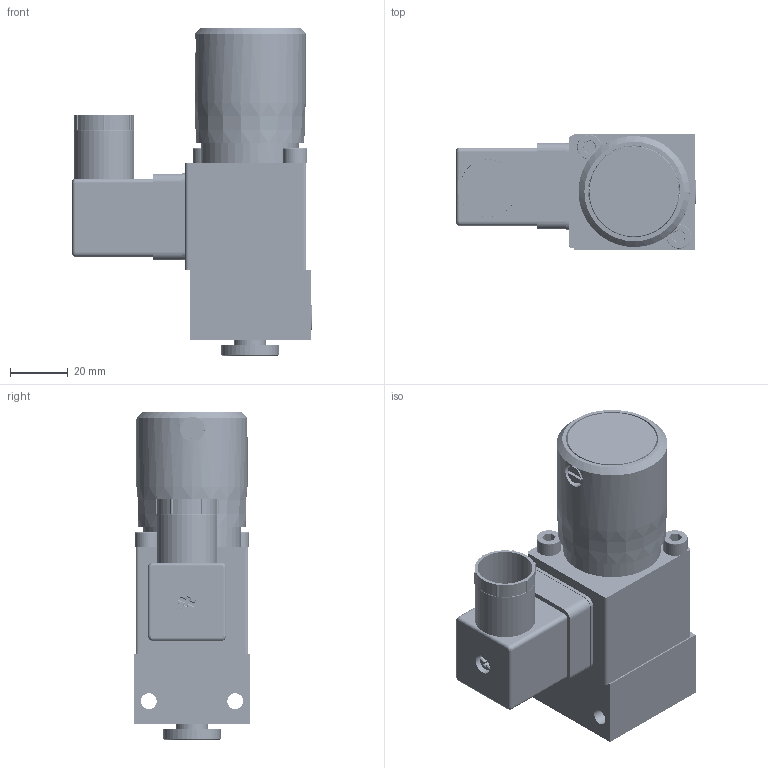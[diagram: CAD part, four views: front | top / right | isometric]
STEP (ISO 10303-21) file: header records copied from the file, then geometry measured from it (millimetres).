
FILE_DESCRIPTION(/* description */ (''),/* implementation_level */ '2;1');
FILE_NAME(/* name */ 'HED8-OP压力继电器.prt.stp',/* time_stamp */ '2022-03-30T19:54:30+08:00',/* author */ (''),/* organization */ (''),/* preprocessor_version */ 'ST-DEVELOPER v16.7',/* originating_system */ 'SIEMENS PLM Software NX 12.0',/* authorisation */ '');
FILE_SCHEMA (('AUTOMOTIVE_DESIGN { 1 0 10303 214 3 1 1 1 }'));
Products named in the file (1): HED8-OP压力继电器
Bounding box: 83.1 x 40 x 113.8 mm (x, y, z)
Volume: 183918.1 mm3; surface area: 63450 mm2
Topology: 20 solids, 23 shells, 764 faces, 2048 edges, 1351 vertices
Faces by surface type: cylinder 412, plane 282, bspline 44, cone 13, torus 10, sphere 3
Full cylindrical faces by diameter (mm): 1.8 x6, 2.5 x43, 3 x97, 3.5 x6, 4 x9, 4.2 x28, 5 x60, 5.424 x1, 5.5 x4, 6 x1, 6.5 x4, 7 x2, 8.5 x3, 8.9 x1, 9.8 x1, 11 x1, 12.5 x1, 19 x1, 20 x1, 21 x1, 25 x1, 28 x1, 31 x1, 31.5 x1, 32 x1, 34 x1, 36 x1, 38.5 x1
Entity records: 87409 total; most frequent: CARTESIAN_POINT 75052, ORIENTED_EDGE 2416, DIRECTION 2412, EDGE_CURVE 1208, AXIS2_PLACEMENT_3D 875, VERTEX_POINT 838, EDGE_LOOP 702, LINE 662
